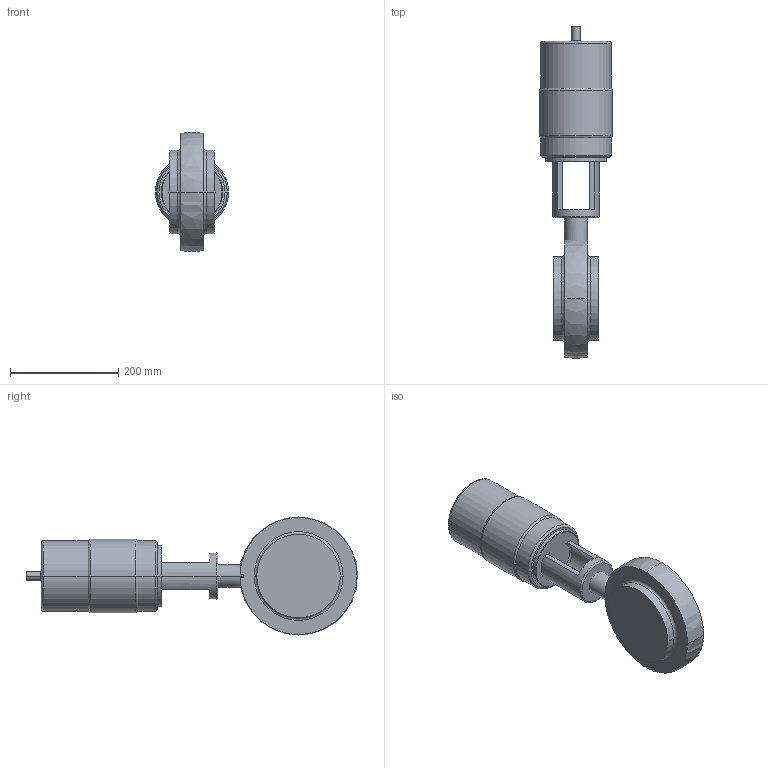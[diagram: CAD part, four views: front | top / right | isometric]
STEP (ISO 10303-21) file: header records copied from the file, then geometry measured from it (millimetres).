
FILE_DESCRIPTION(('OneSpaceDesigner STEP Export'),'2;1');
FILE_NAME('SV1-150-FZ-12S.stp','2007-06-01T 9:52:01',(''),(''),'OneSpace Designer STEP processor for AP214 (Solid Model)','OneSpace Modeling 15.00 06-Feb-2007 (C) CoCreate Software GmbH','');
FILE_SCHEMA(('AUTOMOTIVE_DESIGN { 1 0 10303 214 1 1 1 1 }'));
Length unit declared in the file: millimetre
Products named in the file (2): SV1-FZ-150; SV1-150-FZ-12S.stp
Assembly tree (1 placements, depth 2):
  SV1-150-FZ-12S.stp
    SV1-FZ-150
Bounding box: 135 x 613.27 x 220 mm (x, y, z)
Volume: 5577410.8 mm3; surface area: 277563.1 mm2
Topology: 1 solids, 1 shells, 69 faces, 165 edges, 100 vertices
Faces by surface type: cylinder 24, torus 22, plane 19, sphere 4
Entity records: 2259 total; most frequent: CARTESIAN_POINT 884, ORIENTED_EDGE 322, DIRECTION 238, EDGE_CURVE 161, VERTEX_POINT 100, AXIS2_PLACEMENT_3D 98, EDGE_LOOP 77, FACE_OUTER_BOUND 69
